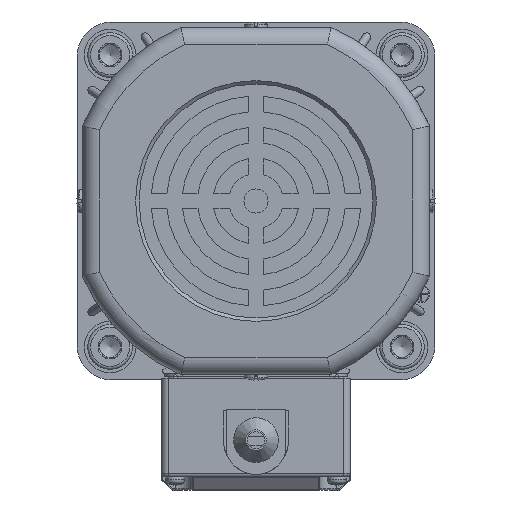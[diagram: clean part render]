
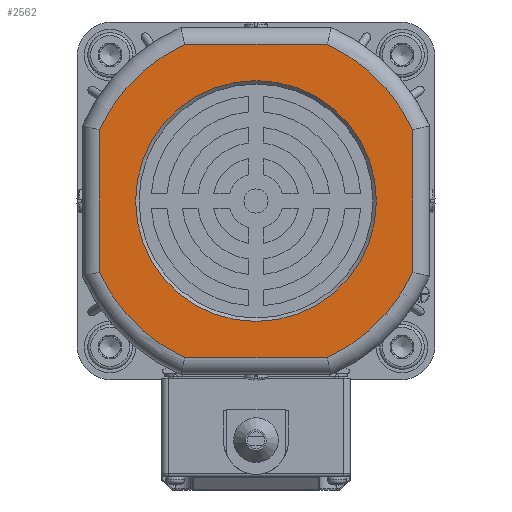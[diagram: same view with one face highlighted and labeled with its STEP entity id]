
A CAD part, left-side view. The second image highlights one B-rep face of the part: STEP entity #2562.
In plain terms, the highlighted planar face has unit normal (-1, 0, 0).
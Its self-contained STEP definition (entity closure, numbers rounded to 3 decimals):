
#1307=FACE_BOUND('',#6180,.T.);
#1308=FACE_BOUND('',#6181,.T.);
#2562=ADVANCED_FACE('',(#1307,#1308),#3908,.F.);
#3908=PLANE('',#26758);
#6180=EDGE_LOOP('',(#9115));
#6181=EDGE_LOOP('',(#9116,#9117,#9118,#9119,#9120,#9121,#9122,#9123));
#9115=ORIENTED_EDGE('',*,*,#18403,.T.);
#9116=ORIENTED_EDGE('',*,*,#18404,.T.);
#9117=ORIENTED_EDGE('',*,*,#18405,.T.);
#9118=ORIENTED_EDGE('',*,*,#18406,.T.);
#9119=ORIENTED_EDGE('',*,*,#18407,.T.);
#9120=ORIENTED_EDGE('',*,*,#18408,.T.);
#9121=ORIENTED_EDGE('',*,*,#18409,.T.);
#9122=ORIENTED_EDGE('',*,*,#18410,.T.);
#9123=ORIENTED_EDGE('',*,*,#18411,.T.);
#15685=VERTEX_POINT('',#38891);
#15686=VERTEX_POINT('',#38893);
#15687=VERTEX_POINT('',#38894);
#15688=VERTEX_POINT('',#38896);
#15689=VERTEX_POINT('',#38898);
#15690=VERTEX_POINT('',#38900);
#15691=VERTEX_POINT('',#38902);
#15692=VERTEX_POINT('',#38904);
#15693=VERTEX_POINT('',#38906);
#18403=EDGE_CURVE('',#15685,#15685,#25248,.T.);
#18404=EDGE_CURVE('',#15686,#15687,#21661,.T.);
#18405=EDGE_CURVE('',#15687,#15688,#25249,.T.);
#18406=EDGE_CURVE('',#15688,#15689,#21662,.T.);
#18407=EDGE_CURVE('',#15689,#15690,#25250,.T.);
#18408=EDGE_CURVE('',#15690,#15691,#21663,.T.);
#18409=EDGE_CURVE('',#15691,#15692,#25251,.T.);
#18410=EDGE_CURVE('',#15692,#15693,#21664,.T.);
#18411=EDGE_CURVE('',#15693,#15686,#25252,.T.);
#21661=LINE('',#38892,#23386);
#21662=LINE('',#38897,#23387);
#21663=LINE('',#38901,#23388);
#21664=LINE('',#38905,#23389);
#23386=VECTOR('',#30113,1.);
#23387=VECTOR('',#30116,1.);
#23388=VECTOR('',#30119,1.);
#23389=VECTOR('',#30122,1.);
#25248=CIRCLE('',#26753,35.);
#25249=CIRCLE('',#26754,50.);
#25250=CIRCLE('',#26755,50.);
#25251=CIRCLE('',#26756,50.);
#25252=CIRCLE('',#26757,50.);
#26753=AXIS2_PLACEMENT_3D('',#38890,#30111,#30112);
#26754=AXIS2_PLACEMENT_3D('',#38895,#30114,#30115);
#26755=AXIS2_PLACEMENT_3D('',#38899,#30117,#30118);
#26756=AXIS2_PLACEMENT_3D('',#38903,#30120,#30121);
#26757=AXIS2_PLACEMENT_3D('',#38907,#30123,#30124);
#26758=AXIS2_PLACEMENT_3D('',#38908,#30125,#30126);
#30111=DIRECTION('',(1.,0.,0.));
#30112=DIRECTION('',(0.,-1.,0.));
#30113=DIRECTION('',(0.,-1.,0.));
#30114=DIRECTION('',(-1.,0.,0.));
#30115=DIRECTION('',(0.,0.,1.));
#30116=DIRECTION('',(0.,0.,1.));
#30117=DIRECTION('',(-1.,0.,0.));
#30118=DIRECTION('',(0.,0.,1.));
#30119=DIRECTION('',(0.,1.,0.));
#30120=DIRECTION('',(-1.,0.,0.));
#30121=DIRECTION('',(0.,0.,1.));
#30122=DIRECTION('',(0.,0.,-1.));
#30123=DIRECTION('',(-1.,0.,0.));
#30124=DIRECTION('',(0.,0.,1.));
#30125=DIRECTION('',(1.,0.,0.));
#30126=DIRECTION('',(0.,0.,1.));
#38890=CARTESIAN_POINT('',(-237.8,-120.671,-58.491));
#38891=CARTESIAN_POINT('',(-237.8,-155.671,-58.491));
#38892=CARTESIAN_POINT('',(-237.8,-142.46,-103.991));
#38893=CARTESIAN_POINT('',(-237.8,-99.941,-103.991));
#38894=CARTESIAN_POINT('',(-237.8,-141.402,-103.991));
#38895=CARTESIAN_POINT('',(-237.8,-120.671,-58.491));
#38896=CARTESIAN_POINT('',(-237.8,-166.171,-79.221));
#38897=CARTESIAN_POINT('',(-237.8,-166.171,-36.702));
#38898=CARTESIAN_POINT('',(-237.8,-166.171,-37.76));
#38899=CARTESIAN_POINT('',(-237.8,-120.671,-58.491));
#38900=CARTESIAN_POINT('',(-237.8,-141.402,-12.991));
#38901=CARTESIAN_POINT('',(-237.8,-98.882,-12.991));
#38902=CARTESIAN_POINT('',(-237.8,-99.941,-12.991));
#38903=CARTESIAN_POINT('',(-237.8,-120.671,-58.491));
#38904=CARTESIAN_POINT('',(-237.8,-75.171,-37.76));
#38905=CARTESIAN_POINT('',(-237.8,-75.171,-80.28));
#38906=CARTESIAN_POINT('',(-237.8,-75.171,-79.221));
#38907=CARTESIAN_POINT('',(-237.8,-120.671,-58.491));
#38908=CARTESIAN_POINT('',(-237.8,-120.671,-58.491));
